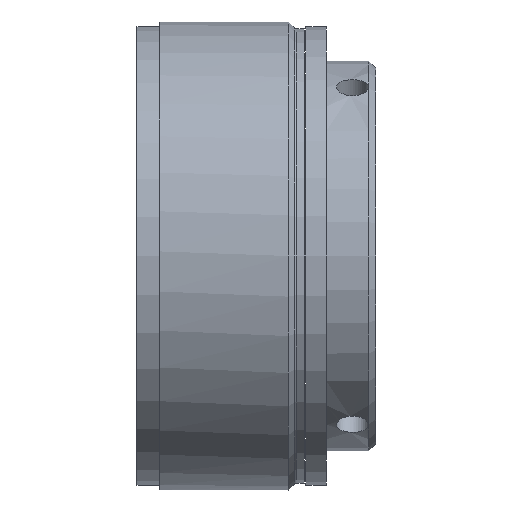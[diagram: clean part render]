
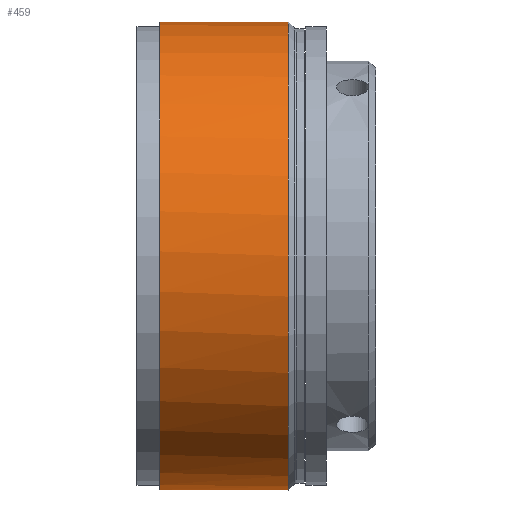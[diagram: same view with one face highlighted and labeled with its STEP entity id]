
A CAD part, front view. The second image highlights one B-rep face of the part: STEP entity #459.
In plain terms, the highlighted cylindrical face has radius 51 mm (diameter 102 mm), a full revolution.
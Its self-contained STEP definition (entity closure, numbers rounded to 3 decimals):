
#13 = CARTESIAN_POINT ( 'NONE',  ( 33., 0., 51. ) ) ;
#15 = ORIENTED_EDGE ( 'NONE', *, *, #255, .F. ) ;
#22 = AXIS2_PLACEMENT_3D ( 'NONE', #1836, #2017, #904 ) ;
#48 = CARTESIAN_POINT ( 'NONE',  ( 12., 50.912, -3. ) ) ;
#135 = ORIENTED_EDGE ( 'NONE', *, *, #746, .F. ) ;
#237 = DIRECTION ( 'NONE',  ( -1., 0., 0. ) ) ;
#255 = EDGE_CURVE ( 'NONE', #1951, #1136, #1627, .T. ) ;
#356 = DIRECTION ( 'NONE',  ( -1., 0., 0. ) ) ;
#442 = VECTOR ( 'NONE', #1364, 1000. ) ;
#446 = AXIS2_PLACEMENT_3D ( 'NONE', #518, #712, #1297 ) ;
#459 = ADVANCED_FACE ( 'NONE', ( #1737, #824 ), #1571, .T. ) ;
#515 = CARTESIAN_POINT ( 'NONE',  ( 5., 50.912, -3. ) ) ;
#518 = CARTESIAN_POINT ( 'NONE',  ( 12., 0., 0. ) ) ;
#613 = EDGE_LOOP ( 'NONE', ( #810, #1800, #135, #15 ) ) ;
#712 = DIRECTION ( 'NONE',  ( -1., 0., 0. ) ) ;
#734 = LINE ( 'NONE', #1818, #442 ) ;
#746 = EDGE_CURVE ( 'NONE', #1136, #1850, #1600, .T. ) ;
#772 = CARTESIAN_POINT ( 'NONE',  ( 5., 50.912, 3. ) ) ;
#782 = DIRECTION ( 'NONE',  ( 0., 0., 1. ) ) ;
#796 = VERTEX_POINT ( 'NONE', #13 ) ;
#810 = ORIENTED_EDGE ( 'NONE', *, *, #1913, .F. ) ;
#824 = FACE_OUTER_BOUND ( 'NONE', #1238, .T. ) ;
#865 = DIRECTION ( 'NONE',  ( 0., 0., 1. ) ) ;
#904 = DIRECTION ( 'NONE',  ( 0., 0., 1. ) ) ;
#971 = VERTEX_POINT ( 'NONE', #1478 ) ;
#1034 = CARTESIAN_POINT ( 'NONE',  ( 33., 0., 0. ) ) ;
#1077 = CIRCLE ( 'NONE', #1296, 51. ) ;
#1109 = CIRCLE ( 'NONE', #446, 51. ) ;
#1136 = VERTEX_POINT ( 'NONE', #515 ) ;
#1145 = EDGE_CURVE ( 'NONE', #796, #796, #1077, .T. ) ;
#1180 = ORIENTED_EDGE ( 'NONE', *, *, #1145, .T. ) ;
#1185 = CARTESIAN_POINT ( 'NONE',  ( 12., 50.912, -3. ) ) ;
#1238 = EDGE_LOOP ( 'NONE', ( #1180 ) ) ;
#1267 = EDGE_CURVE ( 'NONE', #971, #1850, #734, .T. ) ;
#1296 = AXIS2_PLACEMENT_3D ( 'NONE', #1034, #237, #865 ) ;
#1297 = DIRECTION ( 'NONE',  ( 0., 0., -1. ) ) ;
#1364 = DIRECTION ( 'NONE',  ( -1., 0., 0. ) ) ;
#1440 = CARTESIAN_POINT ( 'NONE',  ( 0., 0., 0. ) ) ;
#1445 = VECTOR ( 'NONE', #1802, 1000. ) ;
#1478 = CARTESIAN_POINT ( 'NONE',  ( 12., 50.912, 3. ) ) ;
#1571 = CYLINDRICAL_SURFACE ( 'NONE', #1907, 51. ) ;
#1600 = CIRCLE ( 'NONE', #22, 51. ) ;
#1627 = LINE ( 'NONE', #1185, #1445 ) ;
#1737 = FACE_OUTER_BOUND ( 'NONE', #613, .T. ) ;
#1800 = ORIENTED_EDGE ( 'NONE', *, *, #1267, .T. ) ;
#1802 = DIRECTION ( 'NONE',  ( -1., 0., 0. ) ) ;
#1818 = CARTESIAN_POINT ( 'NONE',  ( 12., 50.912, 3. ) ) ;
#1836 = CARTESIAN_POINT ( 'NONE',  ( 5., 0., 0. ) ) ;
#1850 = VERTEX_POINT ( 'NONE', #772 ) ;
#1907 = AXIS2_PLACEMENT_3D ( 'NONE', #1440, #356, #782 ) ;
#1913 = EDGE_CURVE ( 'NONE', #971, #1951, #1109, .T. ) ;
#1951 = VERTEX_POINT ( 'NONE', #48 ) ;
#2017 = DIRECTION ( 'NONE',  ( -1., 0., 0. ) ) ;
